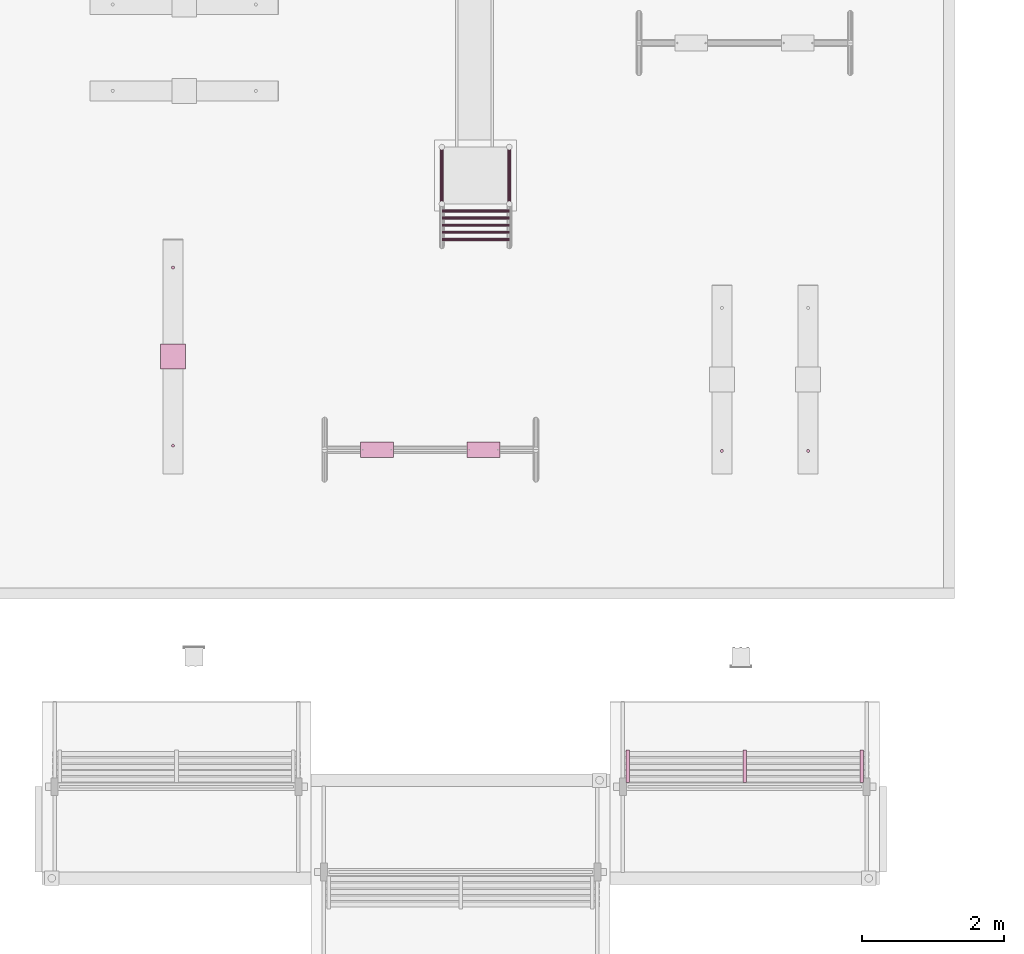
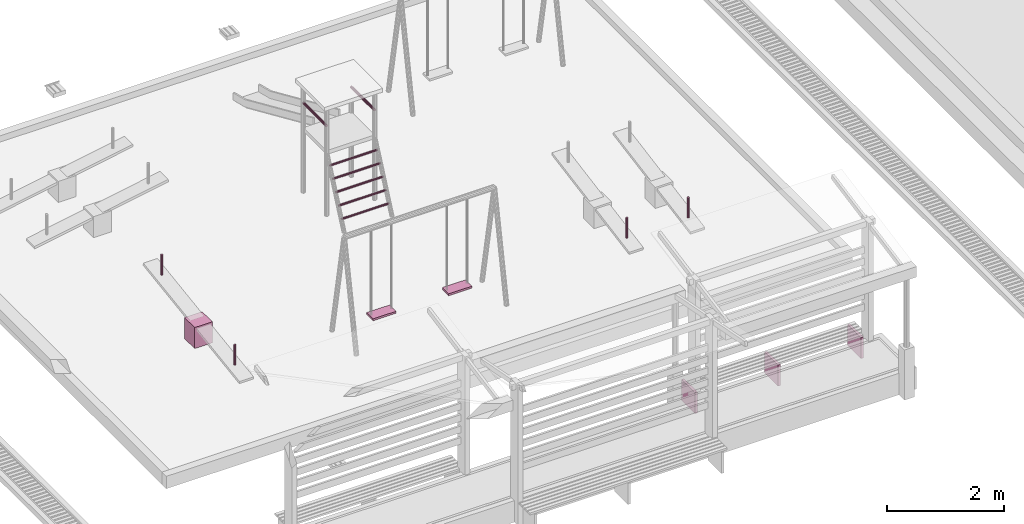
# One storey, part 82 of 90: 17 furnishings.
"""IFC2X3 building model written with IfcOpenShell, lengths in metres."""

from ifc_helpers import new_model, si_unit, origin, origin_with_axes, place, context, subcontext, project, spatial, faceted_brep, element, save


model = new_model("IFC2X3")

# Units and contexts
model_context = context("Model", 3, precision=1e-05, world=origin_with_axes())
body_context = subcontext(model_context, "Body", "Model", "MODEL_VIEW")
ifc_project = project(units=[si_unit("LENGTHUNIT", "METRE"), si_unit("AREAUNIT", "SQUARE_METRE"), si_unit("VOLUMEUNIT", "CUBIC_METRE"), si_unit("PLANEANGLEUNIT", "RADIAN")], contexts=[model_context])

# Site, building, storey
site_placement = place(None, origin_with_axes())
site = spatial("IfcSite", under=ifc_project, at=site_placement, Name="Predio Los Mangos - Morales, San Martín", CompositionType="ELEMENT")
building_placement = place(site_placement, origin())
building = spatial("IfcBuilding", under=site, at=building_placement, Name="Hogar de Refugio Temporal", CompositionType="ELEMENT")
storey_placement = place(building_placement, origin())
storey = spatial("IfcBuildingStorey", under=building, at=storey_placement, Name="NIVEL 1 (NPT +0.00)", CompositionType="ELEMENT", Elevation=0.0)

# Furnishings
furnishing_1_placement = place(storey_placement, origin())
element("IfcFurnishingElement", 1, at=furnishing_1_placement, inside=storey, Name="balancin_manija", ObjectType="Mobiliario exterior / juegos", context=body_context, shape_type="Brep", body=[
    faceted_brep([(38.4772, 79.704, 0.3876), (38.4772, 79.704, 0.8076), (38.4662, 79.7069, 0.8076), (38.4662, 79.7069, 0.3876), (38.4582, 79.715, 0.8076), (38.4582, 79.715, 0.3876), (38.4552, 79.726, 0.8076), (38.4552, 79.726, 0.3876), (38.4582, 79.737, 0.8076), (38.4582, 79.737, 0.3876), (38.4662, 79.745, 0.8076), (38.4662, 79.745, 0.3876), (38.4772, 79.748, 0.8076), (38.4772, 79.748, 0.3876), (38.4883, 79.745, 0.8076), (38.4883, 79.745, 0.3876), (38.4963, 79.737, 0.8076), (38.4963, 79.737, 0.3876), (38.4992, 79.726, 0.8076), (38.4992, 79.726, 0.3876), (38.4963, 79.715, 0.8076), (38.4963, 79.715, 0.3876), (38.4883, 79.7069, 0.8076), (38.4883, 79.7069, 0.3876)], [[[0, 1, 2, 3]], [[3, 2, 4, 5]], [[5, 4, 6, 7]], [[7, 6, 8, 9]], [[9, 8, 10, 11]], [[11, 10, 12, 13]], [[13, 12, 14, 15]], [[15, 14, 16, 17]], [[17, 16, 18, 19]], [[19, 18, 20, 21]], [[2, 1, 22, 20, 18, 16, 14, 12, 10, 8, 6, 4]], [[21, 20, 22, 23]], [[23, 22, 1, 0]], [[0, 3, 5, 7, 9, 11, 13, 15, 17, 19, 21, 23]]]),
])
furnishing_2_placement = place(storey_placement, origin())
element("IfcFurnishingElement", 2, at=furnishing_2_placement, inside=storey, Name="balancin_manija", ObjectType="Mobiliario exterior / juegos", context=body_context, shape_type="Brep", body=[
    faceted_brep([(39.6917, 79.704, 0.3876), (39.6917, 79.704, 0.8076), (39.6807, 79.7069, 0.8076), (39.6807, 79.7069, 0.3876), (39.6727, 79.715, 0.8076), (39.6727, 79.715, 0.3876), (39.6698, 79.726, 0.8076), (39.6698, 79.726, 0.3876), (39.6727, 79.737, 0.8076), (39.6727, 79.737, 0.3876), (39.6807, 79.745, 0.8076), (39.6807, 79.745, 0.3876), (39.6917, 79.748, 0.8076), (39.6917, 79.748, 0.3876), (39.7028, 79.745, 0.8076), (39.7028, 79.745, 0.3876), (39.7108, 79.737, 0.8076), (39.7108, 79.737, 0.3876), (39.7137, 79.726, 0.8076), (39.7137, 79.726, 0.3876), (39.7108, 79.715, 0.8076), (39.7108, 79.715, 0.3876), (39.7028, 79.7069, 0.8076), (39.7028, 79.7069, 0.3876)], [[[0, 1, 2, 3]], [[3, 2, 4, 5]], [[5, 4, 6, 7]], [[7, 6, 8, 9]], [[9, 8, 10, 11]], [[11, 10, 12, 13]], [[13, 12, 14, 15]], [[15, 14, 16, 17]], [[17, 16, 18, 19]], [[19, 18, 20, 21]], [[2, 1, 22, 20, 18, 16, 14, 12, 10, 8, 6, 4]], [[21, 20, 22, 23]], [[23, 22, 1, 0]], [[0, 3, 5, 7, 9, 11, 13, 15, 17, 19, 21, 23]]]),
])
furnishing_3_placement = place(storey_placement, origin())
element("IfcFurnishingElement", 3, at=furnishing_3_placement, inside=storey, Name="peldano", ObjectType="Mobiliario exterior / juegos", context=body_context, shape_type="Brep", body=[
    faceted_brep([(34.535, 82.704, 0.37), (35.485, 82.704, 0.37), (35.485, 82.714, 0.3673), (34.535, 82.714, 0.3673), (35.485, 82.7213, 0.36), (34.535, 82.7213, 0.36), (35.485, 82.724, 0.35), (34.535, 82.724, 0.35), (35.485, 82.7213, 0.34), (34.535, 82.7213, 0.34), (35.485, 82.714, 0.3327), (34.535, 82.714, 0.3327), (35.485, 82.704, 0.33), (34.535, 82.704, 0.33), (35.485, 82.694, 0.3327), (34.535, 82.694, 0.3327), (35.485, 82.6867, 0.34), (34.535, 82.6867, 0.34), (35.485, 82.684, 0.35), (34.535, 82.684, 0.35), (35.485, 82.6867, 0.36), (34.535, 82.6867, 0.36), (35.485, 82.694, 0.3673), (34.535, 82.694, 0.3673)], [[[0, 1, 2, 3]], [[3, 2, 4, 5]], [[5, 4, 6, 7]], [[7, 6, 8, 9]], [[9, 8, 10, 11]], [[11, 10, 12, 13]], [[13, 12, 14, 15]], [[15, 14, 16, 17]], [[17, 16, 18, 19]], [[19, 18, 20, 21]], [[2, 1, 22, 20, 18, 16, 14, 12, 10, 8, 6, 4]], [[21, 20, 22, 23]], [[23, 22, 1, 0]], [[0, 3, 5, 7, 9, 11, 13, 15, 17, 19, 21, 23]]]),
])
furnishing_4_placement = place(storey_placement, origin())
element("IfcFurnishingElement", 4, at=furnishing_4_placement, inside=storey, Name="peldano", ObjectType="Mobiliario exterior / juegos", context=body_context, shape_type="Brep", body=[
    faceted_brep([(34.535, 82.804, 0.59), (35.485, 82.804, 0.59), (35.485, 82.814, 0.5873), (34.535, 82.814, 0.5873), (35.485, 82.8213, 0.58), (34.535, 82.8213, 0.58), (35.485, 82.824, 0.57), (34.535, 82.824, 0.57), (35.485, 82.8213, 0.56), (34.535, 82.8213, 0.56), (35.485, 82.814, 0.5527), (34.535, 82.814, 0.5527), (35.485, 82.804, 0.55), (34.535, 82.804, 0.55), (35.485, 82.794, 0.5527), (34.535, 82.794, 0.5527), (35.485, 82.7867, 0.56), (34.535, 82.7867, 0.56), (35.485, 82.784, 0.57), (34.535, 82.784, 0.57), (35.485, 82.7867, 0.58), (34.535, 82.7867, 0.58), (35.485, 82.794, 0.5873), (34.535, 82.794, 0.5873)], [[[0, 1, 2, 3]], [[3, 2, 4, 5]], [[5, 4, 6, 7]], [[7, 6, 8, 9]], [[9, 8, 10, 11]], [[11, 10, 12, 13]], [[13, 12, 14, 15]], [[15, 14, 16, 17]], [[17, 16, 18, 19]], [[19, 18, 20, 21]], [[2, 1, 22, 20, 18, 16, 14, 12, 10, 8, 6, 4]], [[21, 20, 22, 23]], [[23, 22, 1, 0]], [[0, 3, 5, 7, 9, 11, 13, 15, 17, 19, 21, 23]]]),
])
furnishing_5_placement = place(storey_placement, origin())
element("IfcFurnishingElement", 5, at=furnishing_5_placement, inside=storey, Name="peldano", ObjectType="Mobiliario exterior / juegos", context=body_context, shape_type="Brep", body=[
    faceted_brep([(34.535, 82.904, 0.81), (35.485, 82.904, 0.81), (35.485, 82.914, 0.8073), (34.535, 82.914, 0.8073), (35.485, 82.9213, 0.8), (34.535, 82.9213, 0.8), (35.485, 82.924, 0.79), (34.535, 82.924, 0.79), (35.485, 82.9213, 0.78), (34.535, 82.9213, 0.78), (35.485, 82.914, 0.7727), (34.535, 82.914, 0.7727), (35.485, 82.904, 0.77), (34.535, 82.904, 0.77), (35.485, 82.894, 0.7727), (34.535, 82.894, 0.7727), (35.485, 82.8867, 0.78), (34.535, 82.8867, 0.78), (35.485, 82.884, 0.79), (34.535, 82.884, 0.79), (35.485, 82.8867, 0.8), (34.535, 82.8867, 0.8), (35.485, 82.894, 0.8073), (34.535, 82.894, 0.8073)], [[[0, 1, 2, 3]], [[3, 2, 4, 5]], [[5, 4, 6, 7]], [[7, 6, 8, 9]], [[9, 8, 10, 11]], [[11, 10, 12, 13]], [[13, 12, 14, 15]], [[15, 14, 16, 17]], [[17, 16, 18, 19]], [[19, 18, 20, 21]], [[2, 1, 22, 20, 18, 16, 14, 12, 10, 8, 6, 4]], [[21, 20, 22, 23]], [[23, 22, 1, 0]], [[0, 3, 5, 7, 9, 11, 13, 15, 17, 19, 21, 23]]]),
])
furnishing_6_placement = place(storey_placement, origin())
element("IfcFurnishingElement", 6, at=furnishing_6_placement, inside=storey, Name="peldano", ObjectType="Mobiliario exterior / juegos", context=body_context, shape_type="Brep", body=[
    faceted_brep([(34.535, 83.004, 1.03), (35.485, 83.004, 1.03), (35.485, 83.014, 1.0273), (34.535, 83.014, 1.0273), (35.485, 83.0213, 1.02), (34.535, 83.0213, 1.02), (35.485, 83.024, 1.01), (34.535, 83.024, 1.01), (35.485, 83.0213, 1.0), (34.535, 83.0213, 1.0), (35.485, 83.014, 0.9927), (34.535, 83.014, 0.9927), (35.485, 83.004, 0.99), (34.535, 83.004, 0.99), (35.485, 82.994, 0.9927), (34.535, 82.994, 0.9927), (35.485, 82.9867, 1.0), (34.535, 82.9867, 1.0), (35.485, 82.984, 1.01), (34.535, 82.984, 1.01), (35.485, 82.9867, 1.02), (34.535, 82.9867, 1.02), (35.485, 82.994, 1.0273), (34.535, 82.994, 1.0273)], [[[0, 1, 2, 3]], [[3, 2, 4, 5]], [[5, 4, 6, 7]], [[7, 6, 8, 9]], [[9, 8, 10, 11]], [[11, 10, 12, 13]], [[13, 12, 14, 15]], [[15, 14, 16, 17]], [[17, 16, 18, 19]], [[19, 18, 20, 21]], [[2, 1, 22, 20, 18, 16, 14, 12, 10, 8, 6, 4]], [[21, 20, 22, 23]], [[23, 22, 1, 0]], [[0, 3, 5, 7, 9, 11, 13, 15, 17, 19, 21, 23]]]),
])
furnishing_7_placement = place(storey_placement, origin())
element("IfcFurnishingElement", 7, at=furnishing_7_placement, inside=storey, Name="peldano", ObjectType="Mobiliario exterior / juegos", context=body_context, shape_type="Brep", body=[
    faceted_brep([(34.535, 83.104, 1.25), (35.485, 83.104, 1.25), (35.485, 83.114, 1.2473), (34.535, 83.114, 1.2473), (35.485, 83.1213, 1.24), (34.535, 83.1213, 1.24), (35.485, 83.124, 1.23), (34.535, 83.124, 1.23), (35.485, 83.1213, 1.22), (34.535, 83.1213, 1.22), (35.485, 83.114, 1.2127), (34.535, 83.114, 1.2127), (35.485, 83.104, 1.21), (34.535, 83.104, 1.21), (35.485, 83.094, 1.2127), (34.535, 83.094, 1.2127), (35.485, 83.0867, 1.22), (34.535, 83.0867, 1.22), (35.485, 83.084, 1.23), (34.535, 83.084, 1.23), (35.485, 83.0867, 1.24), (34.535, 83.0867, 1.24), (35.485, 83.094, 1.2473), (34.535, 83.094, 1.2473)], [[[0, 1, 2, 3]], [[3, 2, 4, 5]], [[5, 4, 6, 7]], [[7, 6, 8, 9]], [[9, 8, 10, 11]], [[11, 10, 12, 13]], [[13, 12, 14, 15]], [[15, 14, 16, 17]], [[17, 16, 18, 19]], [[19, 18, 20, 21]], [[2, 1, 22, 20, 18, 16, 14, 12, 10, 8, 6, 4]], [[21, 20, 22, 23]], [[23, 22, 1, 0]], [[0, 3, 5, 7, 9, 11, 13, 15, 17, 19, 21, 23]]]),
])
furnishing_8_placement = place(storey_placement, origin())
element("IfcFurnishingElement", 8, at=furnishing_8_placement, inside=storey, Name="baranda", ObjectType="Mobiliario exterior / juegos", context=body_context, shape_type="Brep", body=[
    faceted_brep([(34.535, 83.204, 2.025), (34.535, 84.004, 2.025), (34.5225, 84.004, 2.0217), (34.5225, 83.204, 2.0217), (34.5133, 84.004, 2.0125), (34.5133, 83.204, 2.0125), (34.51, 84.004, 2.0), (34.51, 83.204, 2.0), (34.5133, 84.004, 1.9875), (34.5133, 83.204, 1.9875), (34.5225, 84.004, 1.9783), (34.5225, 83.204, 1.9783), (34.535, 84.004, 1.975), (34.535, 83.204, 1.975), (34.5475, 84.004, 1.9783), (34.5475, 83.204, 1.9783), (34.5567, 84.004, 1.9875), (34.5567, 83.204, 1.9875), (34.56, 84.004, 2.0), (34.56, 83.204, 2.0), (34.5567, 84.004, 2.0125), (34.5567, 83.204, 2.0125), (34.5475, 84.004, 2.0217), (34.5475, 83.204, 2.0217)], [[[0, 1, 2, 3]], [[3, 2, 4, 5]], [[5, 4, 6, 7]], [[7, 6, 8, 9]], [[9, 8, 10, 11]], [[11, 10, 12, 13]], [[13, 12, 14, 15]], [[15, 14, 16, 17]], [[17, 16, 18, 19]], [[19, 18, 20, 21]], [[2, 1, 22, 20, 18, 16, 14, 12, 10, 8, 6, 4]], [[21, 20, 22, 23]], [[23, 22, 1, 0]], [[0, 3, 5, 7, 9, 11, 13, 15, 17, 19, 21, 23]]]),
])
furnishing_9_placement = place(storey_placement, origin())
element("IfcFurnishingElement", 9, at=furnishing_9_placement, inside=storey, Name="baranda", ObjectType="Mobiliario exterior / juegos", context=body_context, shape_type="Brep", body=[
    faceted_brep([(35.485, 83.204, 2.025), (35.485, 84.004, 2.025), (35.4725, 84.004, 2.0217), (35.4725, 83.204, 2.0217), (35.4633, 84.004, 2.0125), (35.4633, 83.204, 2.0125), (35.46, 84.004, 2.0), (35.46, 83.204, 2.0), (35.4633, 84.004, 1.9875), (35.4633, 83.204, 1.9875), (35.4725, 84.004, 1.9783), (35.4725, 83.204, 1.9783), (35.485, 84.004, 1.975), (35.485, 83.204, 1.975), (35.4975, 84.004, 1.9783), (35.4975, 83.204, 1.9783), (35.5067, 84.004, 1.9875), (35.5067, 83.204, 1.9875), (35.51, 84.004, 2.0), (35.51, 83.204, 2.0), (35.5067, 84.004, 2.0125), (35.5067, 83.204, 2.0125), (35.4975, 84.004, 2.0217), (35.4975, 83.204, 2.0217)], [[[0, 1, 2, 3]], [[3, 2, 4, 5]], [[5, 4, 6, 7]], [[7, 6, 8, 9]], [[9, 8, 10, 11]], [[11, 10, 12, 13]], [[13, 12, 14, 15]], [[15, 14, 16, 17]], [[17, 16, 18, 19]], [[19, 18, 20, 21]], [[2, 1, 22, 20, 18, 16, 14, 12, 10, 8, 6, 4]], [[21, 20, 22, 23]], [[23, 22, 1, 0]], [[0, 3, 5, 7, 9, 11, 13, 15, 17, 19, 21, 23]]]),
])
furnishing_10_placement = place(storey_placement, origin())
element("IfcFurnishingElement", 10, at=furnishing_10_placement, inside=storey, Name="balancin_base", ObjectType="Mobiliario exterior / juegos", context=body_context, shape_type="Brep", body=[
    faceted_brep([(30.576, 80.8785, 0.13), (30.576, 81.2285, 0.13), (30.926, 81.2285, 0.13), (30.926, 80.8785, 0.13), (30.576, 80.8785, 0.57), (30.926, 80.8785, 0.57), (30.926, 81.2285, 0.57), (30.576, 81.2285, 0.57)], [[[0, 1, 2, 3]], [[4, 5, 6, 7]], [[0, 3, 5, 4]], [[3, 2, 6, 5]], [[2, 1, 7, 6]], [[1, 0, 4, 7]]]),
])
furnishing_11_placement = place(storey_placement, origin())
element("IfcFurnishingElement", 11, at=furnishing_11_placement, inside=storey, Name="balancin_manija", ObjectType="Mobiliario exterior / juegos", context=body_context, shape_type="Brep", body=[
    faceted_brep([(30.751, 79.7779, 0.3876), (30.751, 79.7779, 0.8076), (30.74, 79.7808, 0.8076), (30.74, 79.7808, 0.3876), (30.7319, 79.7889, 0.8076), (30.7319, 79.7889, 0.3876), (30.729, 79.7999, 0.8076), (30.729, 79.7999, 0.3876), (30.7319, 79.8109, 0.8076), (30.7319, 79.8109, 0.3876), (30.74, 79.8189, 0.8076), (30.74, 79.8189, 0.3876), (30.751, 79.8219, 0.8076), (30.751, 79.8219, 0.3876), (30.762, 79.8189, 0.8076), (30.762, 79.8189, 0.3876), (30.7701, 79.8109, 0.8076), (30.7701, 79.8109, 0.3876), (30.773, 79.7999, 0.8076), (30.773, 79.7999, 0.3876), (30.7701, 79.7889, 0.8076), (30.7701, 79.7889, 0.3876), (30.762, 79.7808, 0.8076), (30.762, 79.7808, 0.3876)], [[[0, 1, 2, 3]], [[3, 2, 4, 5]], [[5, 4, 6, 7]], [[7, 6, 8, 9]], [[9, 8, 10, 11]], [[11, 10, 12, 13]], [[13, 12, 14, 15]], [[15, 14, 16, 17]], [[17, 16, 18, 19]], [[19, 18, 20, 21]], [[2, 1, 22, 20, 18, 16, 14, 12, 10, 8, 6, 4]], [[21, 20, 22, 23]], [[23, 22, 1, 0]], [[0, 3, 5, 7, 9, 11, 13, 15, 17, 19, 21, 23]]]),
])
furnishing_12_placement = place(storey_placement, origin())
element("IfcFurnishingElement", 12, at=furnishing_12_placement, inside=storey, Name="balancin_manija", ObjectType="Mobiliario exterior / juegos", context=body_context, shape_type="Brep", body=[
    faceted_brep([(30.751, 82.2851, 0.7524), (30.751, 82.2851, 1.1724), (30.74, 82.2881, 1.1724), (30.74, 82.2881, 0.7524), (30.7319, 82.2961, 1.1724), (30.7319, 82.2961, 0.7524), (30.729, 82.3071, 1.1724), (30.729, 82.3071, 0.7524), (30.7319, 82.3181, 1.1724), (30.7319, 82.3181, 0.7524), (30.74, 82.3262, 1.1724), (30.74, 82.3262, 0.7524), (30.751, 82.3291, 1.1724), (30.751, 82.3291, 0.7524), (30.762, 82.3262, 1.1724), (30.762, 82.3262, 0.7524), (30.7701, 82.3181, 1.1724), (30.7701, 82.3181, 0.7524), (30.773, 82.3071, 1.1724), (30.773, 82.3071, 0.7524), (30.7701, 82.2961, 1.1724), (30.7701, 82.2961, 0.7524), (30.762, 82.2881, 1.1724), (30.762, 82.2881, 0.7524)], [[[0, 1, 2, 3]], [[3, 2, 4, 5]], [[5, 4, 6, 7]], [[7, 6, 8, 9]], [[9, 8, 10, 11]], [[11, 10, 12, 13]], [[13, 12, 14, 15]], [[15, 14, 16, 17]], [[17, 16, 18, 19]], [[19, 18, 20, 21]], [[2, 1, 22, 20, 18, 16, 14, 12, 10, 8, 6, 4]], [[21, 20, 22, 23]], [[23, 22, 1, 0]], [[0, 3, 5, 7, 9, 11, 13, 15, 17, 19, 21, 23]]]),
])
furnishing_13_placement = place(storey_placement, origin())
element("IfcFurnishingElement", 13, at=furnishing_13_placement, inside=storey, Name="columpio_asiento", ObjectType="Mobiliario exterior / juegos", context=body_context, shape_type="Brep", body=[
    faceted_brep([(33.3925, 79.634, 0.48), (33.3925, 79.854, 0.48), (33.8525, 79.854, 0.48), (33.8525, 79.634, 0.48), (33.3925, 79.634, 0.52), (33.8525, 79.634, 0.52), (33.8525, 79.854, 0.52), (33.3925, 79.854, 0.52)], [[[0, 1, 2, 3]], [[4, 5, 6, 7]], [[0, 3, 5, 4]], [[3, 2, 6, 5]], [[2, 1, 7, 6]], [[1, 0, 4, 7]]]),
])
furnishing_14_placement = place(storey_placement, origin())
element("IfcFurnishingElement", 14, at=furnishing_14_placement, inside=storey, Name="columpio_asiento", ObjectType="Mobiliario exterior / juegos", context=body_context, shape_type="Brep", body=[
    faceted_brep([(34.8925, 79.634, 0.48), (34.8925, 79.854, 0.48), (35.3525, 79.854, 0.48), (35.3525, 79.634, 0.48), (34.8925, 79.634, 0.52), (35.3525, 79.634, 0.52), (35.3525, 79.854, 0.52), (34.8925, 79.854, 0.52)], [[[0, 1, 2, 3]], [[4, 5, 6, 7]], [[0, 3, 5, 4]], [[3, 2, 6, 5]], [[2, 1, 7, 6]], [[1, 0, 4, 7]]]),
])
furnishing_15_placement = place(storey_placement, origin())
element("IfcFurnishingElement", 15, at=furnishing_15_placement, inside=storey, Name="oc01_pata", ObjectType="Mobiliario exterior / juegos", context=body_context, shape_type="Brep", body=[
    faceted_brep([(40.47, 75.52, 0.0), (40.47, 75.06, 0.0), (40.42, 75.06, 0.0), (40.42, 75.52, 0.0), (40.47, 75.52, 0.44), (40.42, 75.52, 0.44), (40.42, 75.06, 0.44), (40.47, 75.06, 0.44)], [[[0, 1, 2, 3]], [[4, 5, 6, 7]], [[0, 3, 5, 4]], [[3, 2, 6, 5]], [[2, 1, 7, 6]], [[1, 0, 4, 7]]]),
])
furnishing_16_placement = place(storey_placement, origin())
element("IfcFurnishingElement", 16, at=furnishing_16_placement, inside=storey, Name="oc01_pata", ObjectType="Mobiliario exterior / juegos", context=body_context, shape_type="Brep", body=[
    faceted_brep([(38.825, 75.52, 0.0), (38.825, 75.06, 0.0), (38.775, 75.06, 0.0), (38.775, 75.52, 0.0), (38.825, 75.52, 0.44), (38.775, 75.52, 0.44), (38.775, 75.06, 0.44), (38.825, 75.06, 0.44)], [[[0, 1, 2, 3]], [[4, 5, 6, 7]], [[0, 3, 5, 4]], [[3, 2, 6, 5]], [[2, 1, 7, 6]], [[1, 0, 4, 7]]]),
])
furnishing_17_placement = place(storey_placement, origin())
element("IfcFurnishingElement", 17, at=furnishing_17_placement, inside=storey, Name="oc01_pata", ObjectType="Mobiliario exterior / juegos", context=body_context, shape_type="Brep", body=[
    faceted_brep([(37.18, 75.52, 0.0), (37.18, 75.06, 0.0), (37.13, 75.06, 0.0), (37.13, 75.52, 0.0), (37.18, 75.52, 0.44), (37.13, 75.52, 0.44), (37.13, 75.06, 0.44), (37.18, 75.06, 0.44)], [[[0, 1, 2, 3]], [[4, 5, 6, 7]], [[0, 3, 5, 4]], [[3, 2, 6, 5]], [[2, 1, 7, 6]], [[1, 0, 4, 7]]]),
])

save(model, "model.ifc")
